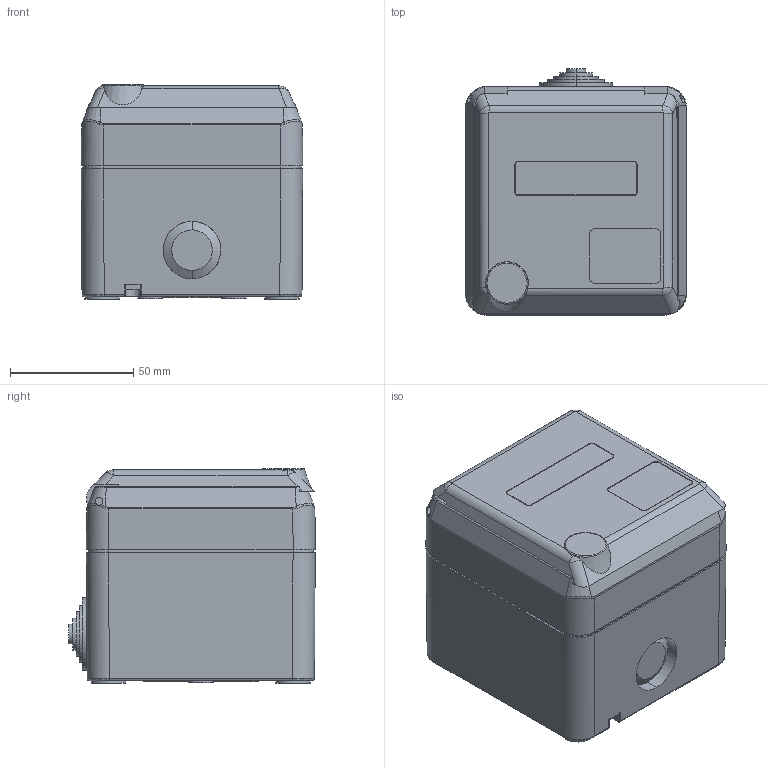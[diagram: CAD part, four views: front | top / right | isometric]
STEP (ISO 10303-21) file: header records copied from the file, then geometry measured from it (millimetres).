
FILE_DESCRIPTION((''),'2;1');
FILE_NAME('4170','2024-12-19T14:40:16',('chylka001'),('MENNEKES'),'CREO PARAMETRIC BY PTC INC, 2023134','CREO PARAMETRIC BY PTC INC, 2023134','');
FILE_SCHEMA(('AUTOMOTIVE_DESIGN { 1 0 10303 214 1 1 1 1 }'));
Length unit declared in the file: millimetre
Products named in the file (1): 4170
Bounding box: 90 x 100.15 x 87.2 mm (x, y, z)
Volume: 683650.5 mm3; surface area: 51868.4 mm2
Topology: 1 solids, 1 shells, 435 faces, 1142 edges, 737 vertices
Faces by surface type: plane 268, cylinder 101, cone 30, bspline 22, torus 14
Entity records: 21605 total; most frequent: CARTESIAN_POINT 3998, ORIENTED_EDGE 2276, DIRECTION 2082, PRESENTATION_STYLE_ASSIGNMENT 1574, STYLED_ITEM 1139, CURVE_STYLE 1138, EDGE_CURVE 1138, VECTOR 780
